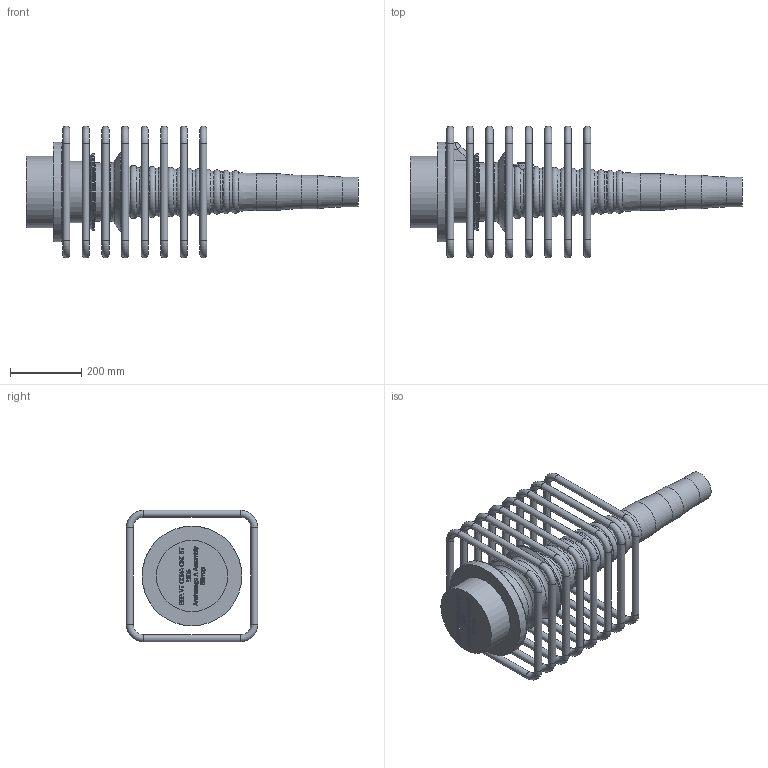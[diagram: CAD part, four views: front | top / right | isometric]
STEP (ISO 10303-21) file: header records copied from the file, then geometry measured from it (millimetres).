
FILE_DESCRIPTION(/* description */ (''),/* implementation_level */ '2;1');
FILE_NAME(/* name */ 'BBR VT CONA CMI BT 1906_Anchorage A Assembly_CS-43,35_Stirrup.stp',/* time_stamp */ '2025-04-28T15:43:06+02:00',/* author */ ('tk'),/* organization */ (''),/* preprocessor_version */ 'ST-DEVELOPER v20',/* originating_system */ 'Autodesk Inventor 2024',/* authorisation */ '');
FILE_SCHEMA (('AUTOMOTIVE_DESIGN { 1 0 10303 214 3 1 1 }'));
Length unit declared in the file: millimetre
Products named in the file (1): BBR VT CONA CMI BT 1906_Anchorage A Assembly_CS-43,35_Stirrup
Bounding box: 932 x 370 x 370 mm (x, y, z)
Volume: 18561686.8 mm3; surface area: 1246734.4 mm2
Topology: 9 solids, 9 shells, 898 faces, 2423 edges, 1594 vertices
Faces by surface type: plane 381, bspline 356, torus 86, cylinder 46, cone 19, sphere 10
Full cylindrical faces by diameter (mm): 20 x32, 34 x1, 57 x1, 84 x1, 94 x1, 104 x1, 164 x1, 200 x1, 218 x1, 223.017 x1, 280 x1
Entity records: 32742 total; most frequent: CARTESIAN_POINT 11339, ORIENTED_EDGE 4842, DIRECTION 3161, EDGE_CURVE 2421, VERTEX_POINT 1594, LINE 1315, VECTOR 1315, EDGE_LOOP 967
